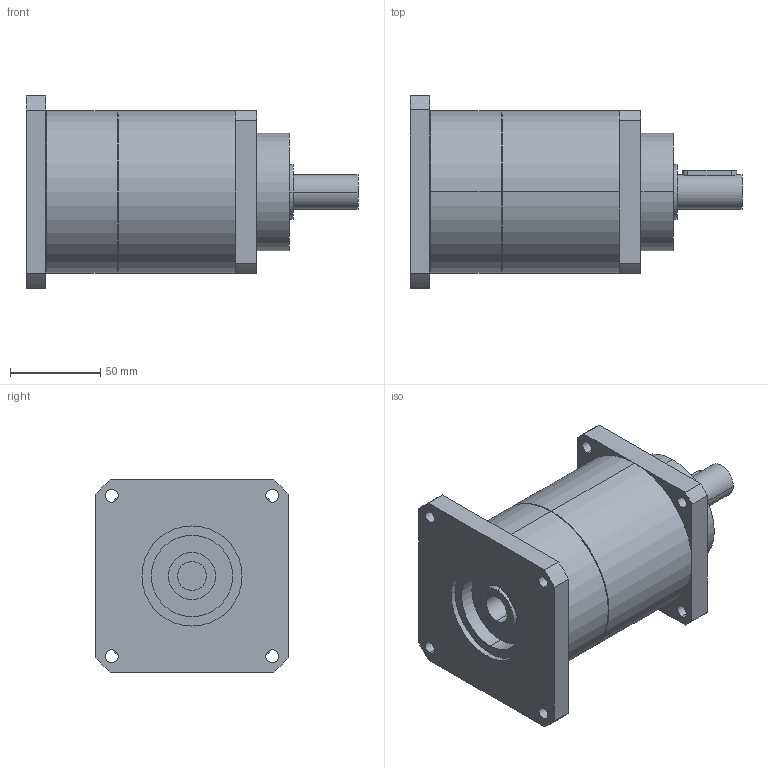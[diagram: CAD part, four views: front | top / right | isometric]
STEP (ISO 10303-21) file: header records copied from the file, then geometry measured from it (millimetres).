
FILE_DESCRIPTION(('CoCreate Modeling STEP Export'),'2;1');
FILE_NAME('GPT90_ig-9-12-16-20-25-28-35-40-50-70-100_19_B5T_15.87_P02.stp','2015-02-04T11:31:03',(''),(''),'CoCreate Modeling STEP processor for AP214 (Solid Model)','CoCreate Modeling 16.00C 25-Feb-2009 (C) Parametric Technology GmbH','');
FILE_SCHEMA(('AUTOMOTIVE_DESIGN { 1 0 10303 214 1 1 1 1 }'));
Length unit declared in the file: millimetre
Products named in the file (2): GPT90_ig-9-12-16-20-25-28-35-40-50-70-100_19_B5T_15.87_P02
Assembly tree (1 placements, depth 2):
  GPT90_ig-9-12-16-20-25-28-35-40-50-70-100_19_B5T_15.87_P02
    GPT90_ig-9-12-16-20-25-28-35-40-50-70-100_19_B5T_15.87_P02
Bounding box: 184 x 106.5 x 106.5 mm (x, y, z)
Volume: 930337.4 mm3; surface area: 76134.3 mm2
Topology: 1 solids, 1 shells, 77 faces, 206 edges, 141 vertices
Faces by surface type: cylinder 46, plane 27, cone 4
Entity records: 2596 total; most frequent: CARTESIAN_POINT 742, ORIENTED_EDGE 412, DIRECTION 324, EDGE_CURVE 206, VERTEX_POINT 141, AXIS2_PLACEMENT_3D 120, EDGE_LOOP 103, VECTOR 84
